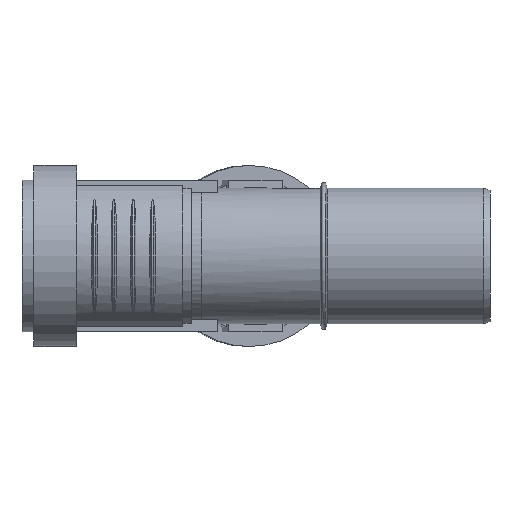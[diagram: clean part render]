
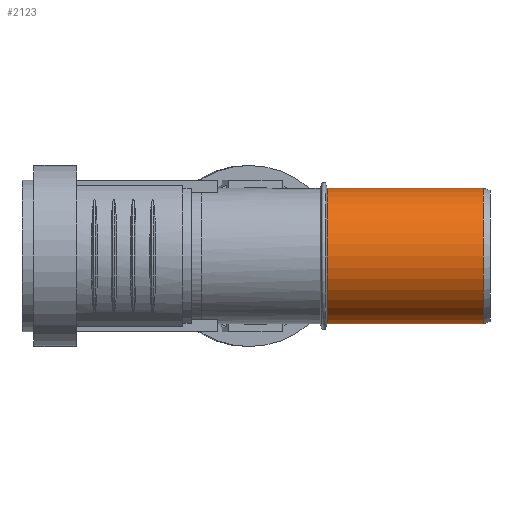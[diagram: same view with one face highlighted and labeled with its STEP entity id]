
A CAD part, left-side view. The second image highlights one B-rep face of the part: STEP entity #2123.
In plain terms, the highlighted cylindrical face has radius 20.075 mm (diameter 40.15 mm), a full revolution.
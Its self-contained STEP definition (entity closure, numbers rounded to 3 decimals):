
#380=CYLINDRICAL_SURFACE($,#2261,20.075);
#415=FACE_BOUND($,#602,.T.);
#483=FACE_OUTER_BOUND($,#601,.T.);
#601=EDGE_LOOP($,(#1402));
#602=EDGE_LOOP($,(#1403));
#784=CIRCLE($,#2259,20.075);
#786=CIRCLE($,#2262,20.075);
#887=VERTEX_POINT($,#3082);
#889=VERTEX_POINT($,#3087);
#1106=EDGE_CURVE($,#887,#887,#784,.T.);
#1108=EDGE_CURVE($,#889,#889,#786,.T.);
#1402=ORIENTED_EDGE($,*,*,#1108,.T.);
#1403=ORIENTED_EDGE($,*,*,#1106,.F.);
#2123=ADVANCED_FACE($,(#483,#415),#380,.T.);
#2259=AXIS2_PLACEMENT_3D($,#3083,#2511,#2512);
#2261=AXIS2_PLACEMENT_3D($,#3086,#2515,#2516);
#2262=AXIS2_PLACEMENT_3D($,#3088,#2517,#2518);
#2511=DIRECTION('center_axis',(0.,-1.,0.));
#2512=DIRECTION('ref_axis',(1.,0.,0.));
#2515=DIRECTION('center_axis',(0.,1.,0.));
#2516=DIRECTION('ref_axis',(1.,0.,0.));
#2517=DIRECTION('center_axis',(0.,-1.,0.));
#2518=DIRECTION('ref_axis',(1.,0.,0.));
#3082=CARTESIAN_POINT('',(-20.075,2.,0.));
#3083=CARTESIAN_POINT('Origin',(0.,2.,0.));
#3086=CARTESIAN_POINT('Origin',(0.,0.,0.));
#3087=CARTESIAN_POINT('',(-20.075,48.3,0.));
#3088=CARTESIAN_POINT('Origin',(0.,48.3,0.));
